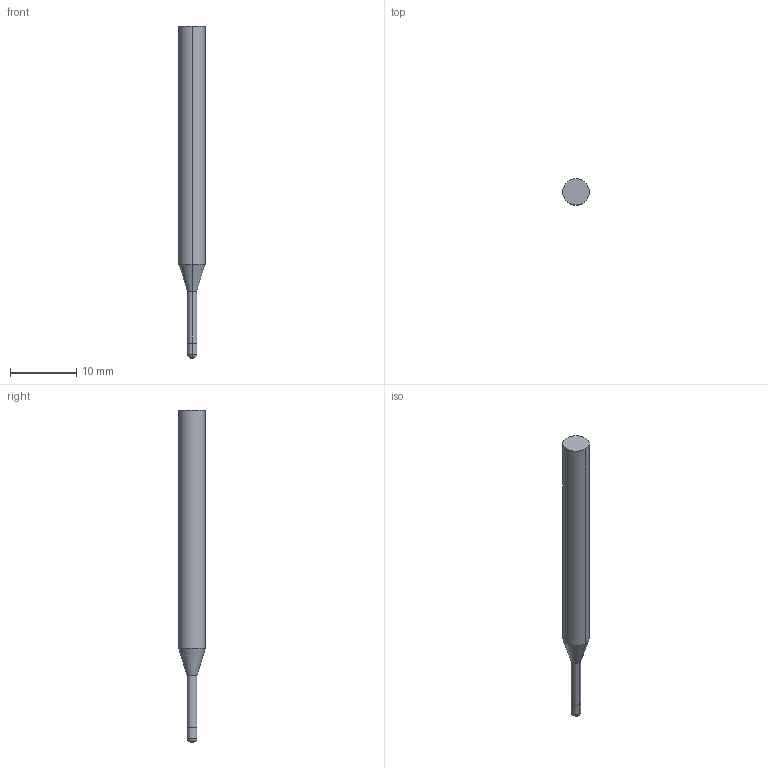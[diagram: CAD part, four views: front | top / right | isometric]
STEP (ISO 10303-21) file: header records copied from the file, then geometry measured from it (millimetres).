
FILE_DESCRIPTION((' '),'2;1');
FILE_NAME( '3MVSM0150R.50N6AH.stp', '2026-01-21T19:27:33', (' '), ('--- Datakit www.datakit.com---'), ' Datakit CrossCadWare V2025.4 Sep 19 2025', 'Mastercam 2027', ' ');
FILE_SCHEMA(('AUTOMOTIVE_DESIGN { 1 0 10303 214 1 1 1 1 }'));
Length unit declared in the file: inch
Products named in the file (1): 3MVSM0150R
Bounding box: 4 x 4 x 50 mm (x, y, z)
Volume: 494.8 mm3; surface area: 548.6 mm2
Topology: 1 solids, 1 shells, 12 faces, 22 edges, 12 vertices
Faces by surface type: cylinder 6, plane 2, torus 2, cone 2
Entity records: 377 total; most frequent: DIRECTION 70, CARTESIAN_POINT 51, ORIENTED_EDGE 44, AXIS2_PLACEMENT_3D 31, EDGE_CURVE 22, CIRCLE 14, VERTEX_POINT 12, EDGE_LOOP 12
